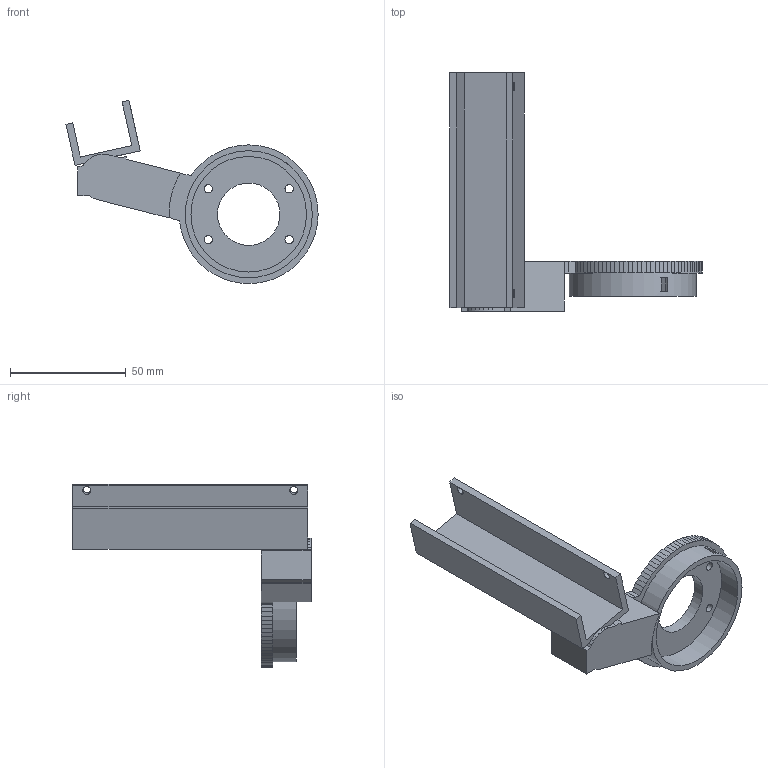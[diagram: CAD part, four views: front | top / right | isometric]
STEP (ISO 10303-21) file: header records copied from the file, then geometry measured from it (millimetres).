
FILE_DESCRIPTION(('Open CASCADE Model'),'2;1');
FILE_NAME('Open CASCADE Shape Model','2026-10-15T17:17:16',('Author'),( 'Open CASCADE'),'Open CASCADE STEP processor 7.9','Open CASCADE 7.9' ,'Unknown');
FILE_SCHEMA(('AUTOMOTIVE_DESIGN { 1 0 10303 214 1 1 1 1 }'));
Length unit declared in the file: millimetre
Products named in the file (1): Open CASCADE STEP translator 7.9 2
Bounding box: 109.09 x 103.1 x 79.26 mm (x, y, z)
Volume: 44384.1 mm3; surface area: 29323.8 mm2
Topology: 1 solids, 2 shells, 214 faces, 624 edges, 416 vertices
Faces by surface type: plane 203, cylinder 11
Full cylindrical faces by diameter (mm): 3.4 x2, 3.6 x4, 27 x1, 50 x1, 55 x1
Entity records: 15064 total; most frequent: CARTESIAN_POINT 2734, DIRECTION 2202, LINE 1715, VECTOR 1715, ORIENTED_EDGE 1248, PCURVE 1248, DEFINITIONAL_REPRESENTATION 1248, EDGE_CURVE 624
